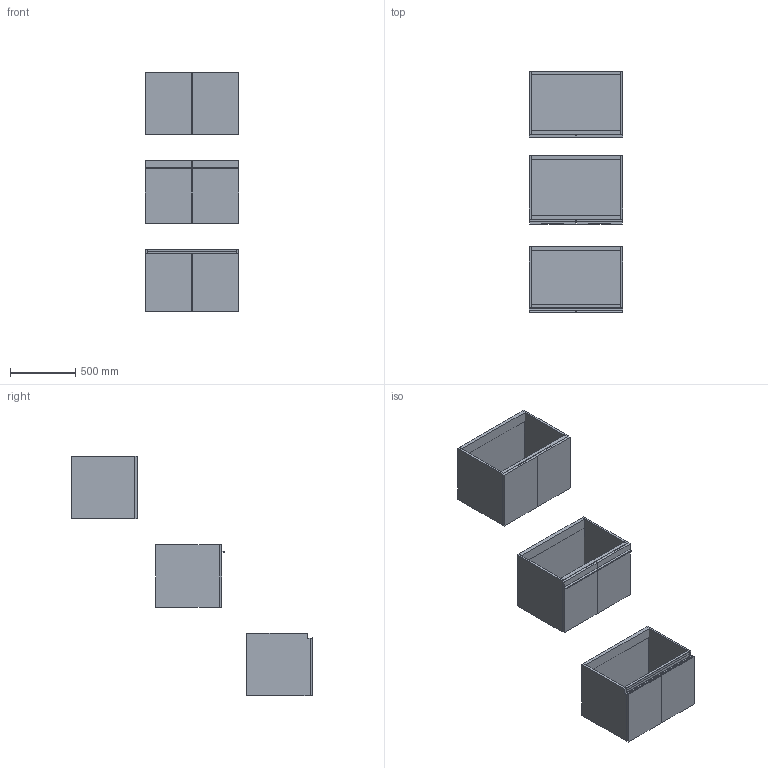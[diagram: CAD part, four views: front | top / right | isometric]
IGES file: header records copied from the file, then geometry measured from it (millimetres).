
Start section: Data from Parasolid IGES Translator 19.0.9, Copyright(c) 2006 Siemens PL M Software. All Rights Reserved.
Global section: file name: noorth-SI-H 48 D 51 W 72_8560.igs; native system: By Siemens PLM Incorporated; preprocessor: XPlus GENERIC/IGES 19.0.9; author: Noname; organization: Noname; date: 20200601.113656; units: metre
Bounding box: 720 x 1857.1 x 1840.01 mm (x, y, z)
Volume: 66289144.9 mm3; surface area: 9949164.6 mm2
Topology: 27 solids, 27 shells, 264 faces, 574 edges, 340 vertices
Faces by surface type: plane 180, cylinder 52, sphere 20, torus 12
